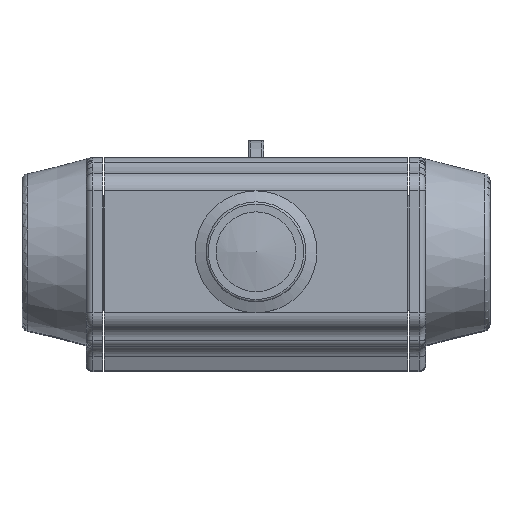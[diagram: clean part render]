
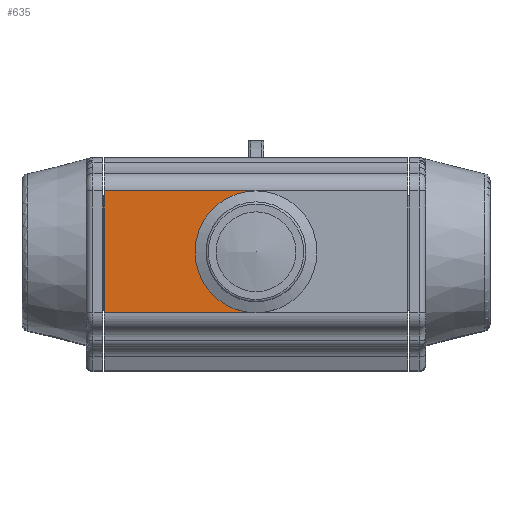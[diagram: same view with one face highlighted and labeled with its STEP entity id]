
A CAD part, top view. The second image highlights one B-rep face of the part: STEP entity #635.
In plain terms, the highlighted planar face has unit normal (0, 0, 1).
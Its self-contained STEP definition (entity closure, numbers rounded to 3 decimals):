
#635 = ADVANCED_FACE( '', ( #1705 ), #1706, .T. );
#1705 = FACE_OUTER_BOUND( '', #3357, .T. );
#1706 = PLANE( '', #3358 );
#3357 = EDGE_LOOP( '', ( #6348, #6349, #6350, #6351 ) );
#3358 = AXIS2_PLACEMENT_3D( '', #6352, #6353, #6354 );
#6348 = ORIENTED_EDGE( '', *, *, #11215, .F. );
#6349 = ORIENTED_EDGE( '', *, *, #11216, .T. );
#6350 = ORIENTED_EDGE( '', *, *, #11217, .T. );
#6351 = ORIENTED_EDGE( '', *, *, #11113, .F. );
#6352 = CARTESIAN_POINT( '', ( 68.5, -27.5, 51. ) );
#6353 = DIRECTION( '', ( 0., 0., 1. ) );
#6354 = DIRECTION( '', ( 1., 0., 0. ) );
#11113 = EDGE_CURVE( '', #12903, #12905, #12906, .T. );
#11215 = EDGE_CURVE( '', #13080, #12903, #13081, .T. );
#11216 = EDGE_CURVE( '', #13080, #13082, #13083, .T. );
#11217 = EDGE_CURVE( '', #13082, #12905, #13084, .T. );
#12903 = VERTEX_POINT( '', #15435 );
#12905 = VERTEX_POINT( '', #15437 );
#12906 = LINE( '', #15438, #15439 );
#13080 = VERTEX_POINT( '', #15940 );
#13081 = LINE( '', #15941, #15942 );
#13082 = VERTEX_POINT( '', #15943 );
#13083 = CIRCLE( '', #15944, 27.5 );
#13084 = LINE( '', #15945, #15946 );
#15435 = CARTESIAN_POINT( '', ( -68.5, -27.5, 51. ) );
#15437 = CARTESIAN_POINT( '', ( -68.5, 27.5, 51. ) );
#15438 = CARTESIAN_POINT( '', ( -68.5, -27.5, 51. ) );
#15439 = VECTOR( '', #22510, 1000. );
#15940 = CARTESIAN_POINT( '', ( 0., -27.5, 51. ) );
#15941 = CARTESIAN_POINT( '', ( 68.5, -27.5, 51. ) );
#15942 = VECTOR( '', #22606, 1000. );
#15943 = CARTESIAN_POINT( '', ( 0., 27.5, 51. ) );
#15944 = AXIS2_PLACEMENT_3D( '', #22607, #22608, #22609 );
#15945 = CARTESIAN_POINT( '', ( 68.5, 27.5, 51. ) );
#15946 = VECTOR( '', #22610, 1000. );
#22510 = DIRECTION( '', ( 0., 1., 0. ) );
#22606 = DIRECTION( '', ( -1., 0., 0. ) );
#22607 = CARTESIAN_POINT( '', ( 0., 0., 51. ) );
#22608 = DIRECTION( '', ( 0., 0., -1. ) );
#22609 = DIRECTION( '', ( -1., 0., 0. ) );
#22610 = DIRECTION( '', ( -1., 0., 0. ) );
